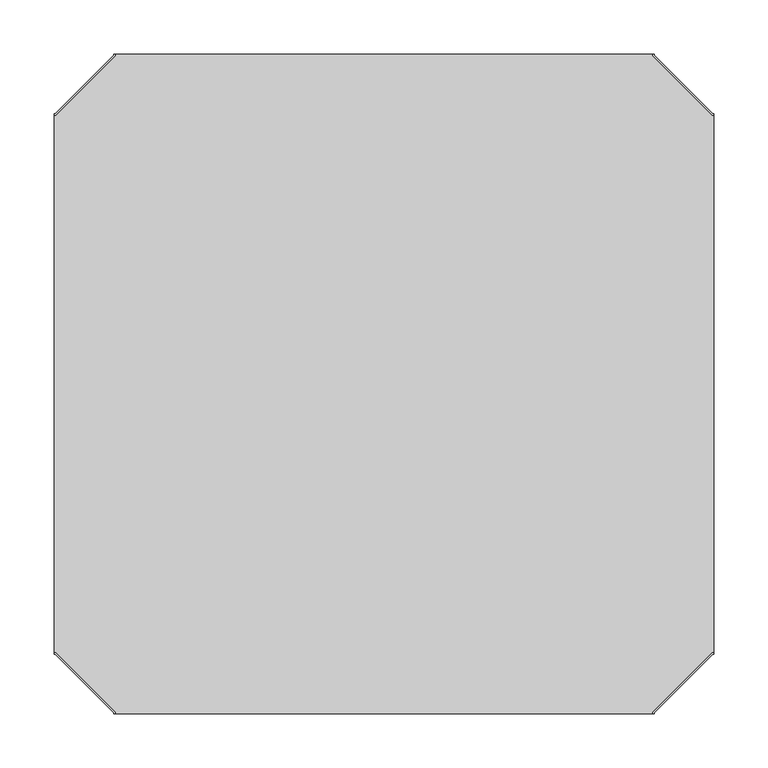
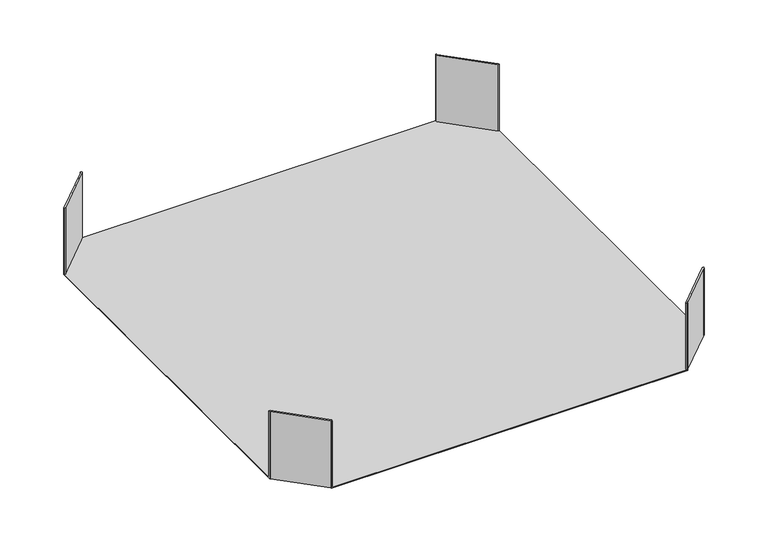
"""IFC4 building model written with IfcOpenShell, lengths in millimetres: cable carrier fitting geometry, BAKS_Horizontal cross over : CZKP_H100."""

from ifc_helpers import new_model, si_unit, origin, place, context, project, spatial, faceted_brep, source, transform, mapped, element, save


def cable_carrier_fitting_a6edbbf3(model_context):
    return source(origin(), model_context, "Body", "Brep", [
        faceted_brep([(-248.5, -303.3786797, 50.0), (-303.3786797, -248.5, 50.0), (-305.0, -248.5, 50.0), (-305.0, -250.0, 50.0), (-304.0, -250.0, 50.0), (-250.0, -304.0, 50.0), (-250.0, -305.0, 50.0), (-248.5, -305.0, 50.0), (248.5, -303.3786797, 50.0), (248.5, -305.0, 50.0), (250.0, -305.0, 50.0), (250.0, -304.0, 50.0), (304.0, -250.0, 50.0), (305.0, -250.0, 50.0), (305.0, -248.5, 50.0), (303.3786797, -248.5, 50.0), (-248.5, 303.3786797, 50.0), (-248.5, 305.0, 50.0), (-250.0, 305.0, 50.0), (-250.0, 304.0, 50.0), (-304.0, 250.0, 50.0), (-305.0, 250.0, 50.0), (-305.0, 248.5, 50.0), (-303.3786797, 248.5, 50.0), (248.5, 303.3786797, 50.0), (303.3786797, 248.5, 50.0), (305.0, 248.5, 50.0), (305.0, 250.0, 50.0), (304.0, 250.0, 50.0), (250.0, 304.0, 50.0), (250.0, 305.0, 50.0), (248.5, 305.0, 50.0), (-250.0, -305.0, -50.0), (-250.0, -304.0, -50.0), (-304.0, -250.0, -50.0), (-305.0, -250.0, -50.0), (-305.0, 250.0, -50.0), (-304.0, 250.0, -50.0), (-250.0, 304.0, -50.0), (-250.0, 305.0, -50.0), (250.0, 305.0, -50.0), (250.0, 304.0, -50.0), (304.0, 250.0, -50.0), (305.0, 250.0, -50.0), (305.0, -250.0, -50.0), (304.0, -250.0, -50.0), (250.0, -304.0, -50.0), (250.0, -305.0, -50.0), (-248.5, -303.3786797, -48.5), (-303.3786797, -248.5, -48.5), (-305.0, -248.5, -48.5), (-305.0, 248.5, -48.5), (-304.0, -250.0, -48.5), (-250.0, -304.0, -48.5), (248.5, -305.0, -48.5), (-248.5, -305.0, -48.5), (250.0, -304.0, -48.5), (304.0, -250.0, -48.5), (305.0, 248.5, -48.5), (305.0, -248.5, -48.5), (303.3786797, -248.5, -48.5), (248.5, -303.3786797, -48.5), (-248.5, 303.3786797, -48.5), (-248.5, 305.0, -48.5), (248.5, 305.0, -48.5), (-250.0, 304.0, -48.5), (-304.0, 250.0, -48.5), (-303.3786797, 248.5, -48.5), (248.5, 303.3786797, -48.5), (303.3786797, 248.5, -48.5), (304.0, 250.0, -48.5), (250.0, 304.0, -48.5)], [[[0, 1, 2, 3, 4, 5, 6, 7]], [[8, 9, 10, 11, 12, 13, 14, 15]], [[16, 17, 18, 19, 20, 21, 22, 23]], [[24, 25, 26, 27, 28, 29, 30, 31]], [[32, 33, 34, 35, 36, 37, 38, 39, 40, 41, 42, 43, 44, 45, 46, 47]], [[1, 0, 48, 49]], [[2, 1, 49, 50]], [[3, 2, 50, 51, 22, 21, 36, 35]], [[4, 3, 35, 34, 52]], [[5, 4, 52, 34, 33, 53]], [[32, 6, 5, 53, 33]], [[7, 6, 32, 47, 10, 9, 54, 55]], [[0, 7, 55, 48]], [[12, 11, 56, 46, 45, 57]], [[44, 13, 12, 57, 45]], [[14, 13, 44, 43, 27, 26, 58, 59]], [[15, 14, 59, 60]], [[8, 15, 60, 61]], [[9, 8, 61, 54]], [[11, 10, 47, 46, 56]], [[17, 16, 62, 63]], [[18, 17, 63, 64, 31, 30, 40, 39]], [[19, 18, 39, 38, 65]], [[20, 19, 65, 38, 37, 66]], [[36, 21, 20, 66, 37]], [[23, 22, 51, 67]], [[16, 23, 67, 62]], [[25, 24, 68, 69]], [[26, 25, 69, 58]], [[28, 27, 43, 42, 70]], [[29, 28, 70, 42, 41, 71]], [[40, 30, 29, 71, 41]], [[24, 31, 64, 68]], [[55, 54, 61, 60, 59, 58, 69, 68, 64, 63, 62, 67, 51, 50, 49, 48]]]),
    ])


if __name__ == "__main__":
    model = new_model("IFC4")
    model_context = context("Model", 3, world=origin())
    ifc_project = project(units=[si_unit("LENGTHUNIT", "METRE", prefix="MILLI")], contexts=[model_context])
    site = spatial("IfcSite", under=ifc_project)
    building = spatial("IfcBuilding", under=site)
    placement = place(None, origin())
    cable_carrier_fitting_shape = cable_carrier_fitting_a6edbbf3(model_context)
    element("IfcCableCarrierFitting", 1, ObjectType="BAKS_Horizontal cross over : CZKP_H100", at=placement, inside=building, context=model_context, shape_type="MappedRepresentation", body=[
        mapped(cable_carrier_fitting_shape, transform((0.0, 0.0, 0.0), x_axis=(1.0, 0.0, 0.0), y_axis=(0.0, 1.0, 0.0), z_axis=(0.0, 0.0, 1.0))),
    ])
    save(model, "model.ifc")
